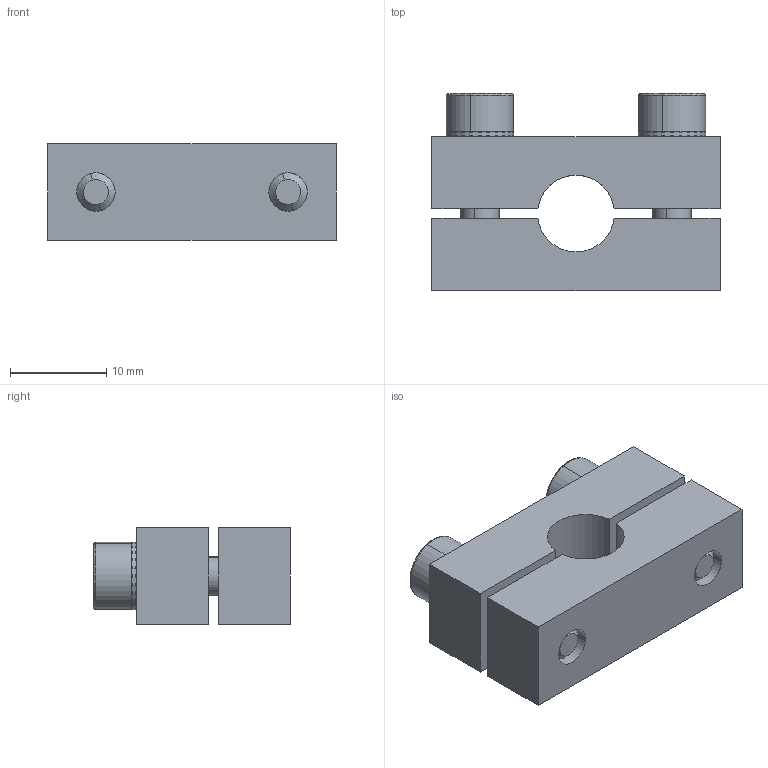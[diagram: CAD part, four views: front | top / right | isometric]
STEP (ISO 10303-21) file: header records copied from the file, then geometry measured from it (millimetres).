
FILE_DESCRIPTION (( 'STEP AP214' ), '1' );
FILE_NAME ('SMBS-8T10.STEP', '2019-11-07T01:43:44', ( '微软用户' ), ( '微软中国' ), 'SwSTEP 2.0', 'SolidWorks 2016', '' );
FILE_SCHEMA (( 'AUTOMOTIVE_DESIGN' ));
Length unit declared in the file: millimetre
Products named in the file (1): SMBS-8T10
Bounding box: 30 x 20.5 x 10 mm (x, y, z)
Volume: 4267.8 mm3; surface area: 3614.6 mm2
Topology: 6 solids, 6 shells, 459 faces, 1311 edges, 866 vertices
Faces by surface type: plane 420, cylinder 31, cone 4, bspline 4
Entity records: 20409 total; most frequent: CARTESIAN_POINT 2885, DIRECTION 2649, ORIENTED_EDGE 2622, EDGE_CURVE 1311, AXIS2_PLACEMENT_3D 890, VECTOR 869, LINE 869, VERTEX_POINT 866
